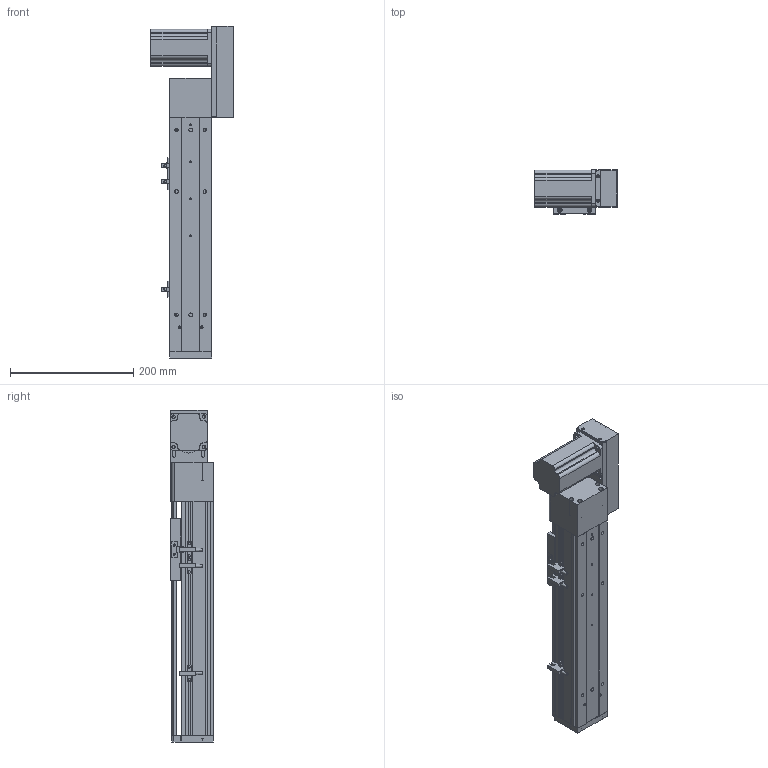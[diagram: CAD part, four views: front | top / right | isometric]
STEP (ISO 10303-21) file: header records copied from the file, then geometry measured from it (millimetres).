
FILE_DESCRIPTION (( 'STEP AP203' ), '1' );
FILE_NAME ('ML68-S200-CL.STEP', '2016-08-04T11:16:27', ( '' ), ( '' ), 'SwSTEP 2.0', 'SolidWorks 2014', '' );
FILE_SCHEMA (( 'CONFIG_CONTROL_DESIGN' ));
Length unit declared in the file: millimetre
Products named in the file (11): 60換覜結え; QS68酘衵殏萇儂啣; 三协电机MH201N2_預設; ML68雄赽釱; QS68左右折电机板罩子; ML68-S200-CL; ML68菁釱^ML68-S200-CL; ML68奻裔^ML68-S200-CL; ML68傷啣; 換覜ん; ML68-BR傷啣
Assembly tree (12 placements, depth 2):
  ML68-S200-CL
    ML68菁釱^ML68-S200-CL
    ML68奻裔^ML68-S200-CL
    60換覜結え
    ML68-BR傷啣
    換覜ん  x3
    ML68傷啣
    三协电机MH201N2_預設
    ML68雄赽釱
    QS68酘衵殏萇儂啣
    QS68左右折电机板罩子
Bounding box: 133.5 x 70.5 x 538.5 mm (x, y, z)
Volume: 1201853.1 mm3; surface area: 396110.1 mm2
Topology: 12 solids, 12 shells, 803 faces, 2200 edges, 1395 vertices
Faces by surface type: cylinder 360, plane 351, cone 92
Entity records: 25023 total; most frequent: CARTESIAN_POINT 4565, DIRECTION 4140, ORIENTED_EDGE 3908, EDGE_CURVE 1954, AXIS2_PLACEMENT_3D 1486, VERTEX_POINT 1283, VECTOR 1168, LINE 1168
